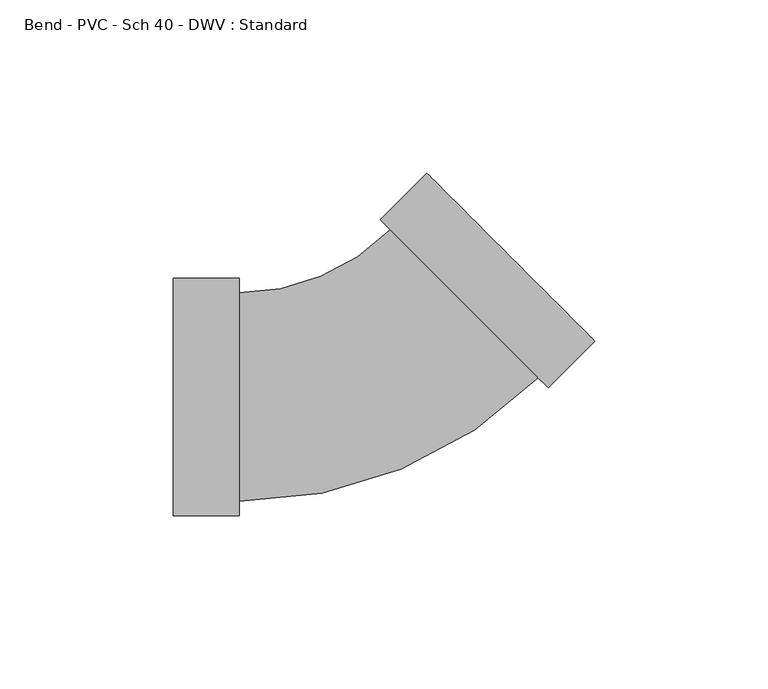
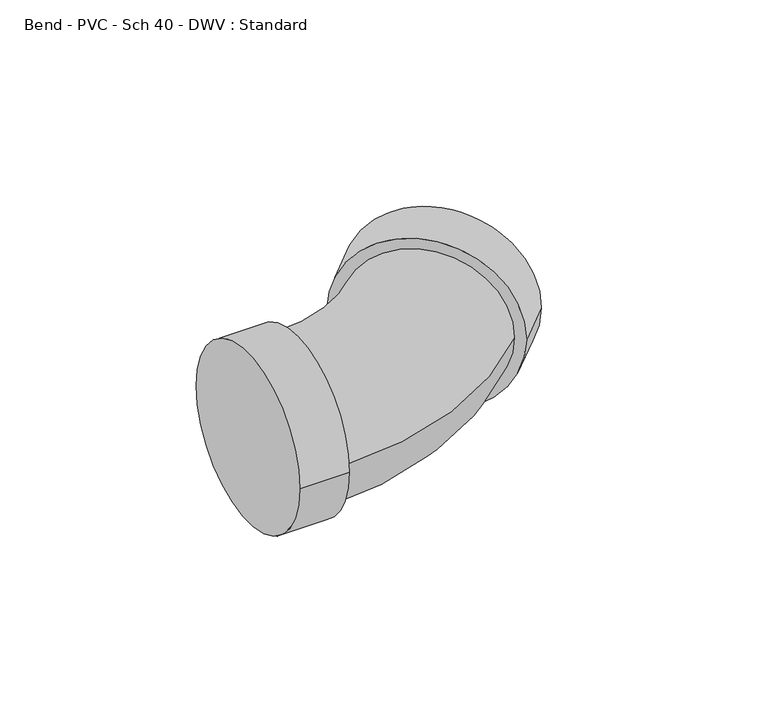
"""IFC4 building model written with IfcOpenShell, lengths in millimetres: pipe fitting geometry, Bend - PVC - Sch 40 - DWV : Standard."""

from ifc_helpers import new_model, si_unit, point, frame, origin, place, context, project, spatial, circle_curve, ellipse_curve, trimmed, source, transform, mapped, element, save
from ifc_brep_helpers import plane_surface, cylinder_surface, revolved_surface, advanced_brep


def bend_pvc_sch_40_dwv_standard_f4bd1dea(model_context):
    return source(origin(), model_context, "Body", "AdvancedBrep", [
        advanced_brep(
        [(-57.15, -34.3154, 0.0), (-57.15, 34.3154, 0.0), (-38.1, -34.3154, 0.0), (-38.1, 34.3154, 0.0), (-38.1, -30.1625, 0.0), (-38.1, 30.1625, 0.0), (5.6149164, 48.2686142, 0.0), (48.269139, 5.6104038, 0.0), (51.2055454, 2.6737227, 0.0), (2.6785099, 51.2052953, 0.0), (64.6765593, 16.1434772, 0.0), (16.1495237, 64.6750498, 0.0)],
        [
            (0, 1, circle_curve(frame((-57.15, 0.0, 0.0), z_axis=(-1.0, 0.0, 0.0), x_axis=(0.0, 1.0, 0.0)), 34.3154)),
            (1, 0, circle_curve(frame((-57.15, 0.0, 0.0), z_axis=(-1.0, 0.0, 0.0), x_axis=(0.0, 1.0, 0.0)), 34.3154)),
            (2, 3, circle_curve(frame((-38.1, 0.0, 0.0), z_axis=(1.0, 0.0, 0.0), x_axis=(0.0, 1.0, 0.0)), 34.3154)),
            (3, 2, circle_curve(frame((-38.1, 0.0, 0.0), z_axis=(1.0, 0.0, 0.0), x_axis=(0.0, 1.0, 0.0)), 34.3154)),
            (4, 5, circle_curve(frame((-38.1, 0.0, 0.0), z_axis=(-1.0, 0.0, 0.0), x_axis=(0.0, 1.0, 0.0)), 30.1625)),
            (5, 4, circle_curve(frame((-38.1, 0.0, 0.0), z_axis=(-1.0, 0.0, 0.0), x_axis=(0.0, 1.0, 0.0)), 30.1625)),
            (0, 2),
            (3, 1),
            (6, 5, circle_curve(frame((-38.1, 91.9876177, 0.0), z_axis=(0.0, 0.0, -1.0), x_axis=(0.0, -1.0, 0.0)), 61.8251177)),
            (4, 7, circle_curve(frame((-38.1, 91.9876177, 0.0), z_axis=(0.0, 0.0, 1.0), x_axis=(0.0, -1.0, 0.0)), 122.1501177)),
            (7, 6, circle_curve(frame((26.9420277, 26.939509, 0.0), z_axis=(-0.7071398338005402, -0.7070737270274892, 0.0), x_axis=(-0.7070737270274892, 0.7071398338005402, 0.0)), 30.1625)),
            (6, 7, circle_curve(frame((26.9420277, 26.939509, 0.0), z_axis=(-0.7071398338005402, -0.7070737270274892, 0.0), x_axis=(-0.7070737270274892, 0.7071398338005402, 0.0)), 30.1625)),
            (8, 9, circle_curve(frame((26.9420277, 26.939509, 0.0), z_axis=(-0.7071398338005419, -0.7070737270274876, 0.0), x_axis=(-0.7070737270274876, 0.7071398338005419, 0.0)), 34.3154)),
            (9, 8, circle_curve(frame((26.9420277, 26.939509, 0.0), z_axis=(-0.7071398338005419, -0.7070737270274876, 0.0), x_axis=(-0.7070737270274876, 0.7071398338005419, 0.0)), 34.3154)),
            (10, 11, circle_curve(frame((40.4130415, 40.4092635, 0.0), z_axis=(0.7071398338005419, 0.7070737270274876, 0.0), x_axis=(-0.7070737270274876, 0.7071398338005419, 0.0)), 34.3154)),
            (11, 10, circle_curve(frame((40.4130415, 40.4092635, 0.0), z_axis=(0.7071398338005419, 0.7070737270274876, 0.0), x_axis=(-0.7070737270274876, 0.7071398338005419, 0.0)), 34.3154)),
            (8, 10),
            (11, 9),
        ],
        [
            plane_surface(frame((-57.15, 0.0, 0.0), z_axis=(-1.0, 0.0, 0.0), x_axis=(0.0, 0.0, 1.0))),
            plane_surface(frame((-38.1, 0.0, 0.0), z_axis=(1.0, 0.0, 0.0), x_axis=(0.0, 0.0, 1.0))),
            cylinder_surface(frame((-57.15, 0.0, 0.0), z_axis=(-1.0, 0.0, 0.0), x_axis=(0.0, 1.0, 0.0)), 34.3154),
            revolved_surface(trimmed(ellipse_curve(frame((-38.1, 0.0, 0.0), z_axis=(-1.0, 0.0, 0.0), x_axis=(0.0, 1.0, 0.0)), 30.1625, 30.1625), [point((-38.1, -30.1625, 0.0))], [point((-38.1, 30.1625, 0.0))], True, "CARTESIAN"), (-38.1, 91.9876177, 0.0), (0.0, 0.0, 1.0)),
            revolved_surface(trimmed(ellipse_curve(frame((-38.1, 0.0, 0.0), z_axis=(-1.0, 0.0, 0.0), x_axis=(0.0, 1.0, 0.0)), 30.1625, 30.1625), [point((-38.1, 30.1625, 0.0))], [point((-38.1, -30.1625, 0.0))], True, "CARTESIAN"), (-38.1, 91.9876177, 0.0), (0.0, 0.0, 1.0)),
            plane_surface(frame((26.9420277, 26.939509, 0.0), z_axis=(-0.7071398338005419, -0.7070737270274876, 0.0), x_axis=(0.0, 0.0, 1.0))),
            plane_surface(frame((40.4130415, 40.4092635, 0.0), z_axis=(0.7071398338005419, 0.7070737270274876, 0.0), x_axis=(0.0, 0.0, 1.0))),
            cylinder_surface(frame((26.9420277, 26.939509, 0.0), z_axis=(-0.7071398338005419, -0.7070737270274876, 0.0), x_axis=(-0.7070737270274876, 0.7071398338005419, 0.0)), 34.3154),
        ],
        [
            (0, [[1, 2]]),
            (1, [[3, 4], [5, 6]]),
            (2, [[-1, 7, -4, 8]]),
            (2, [[-2, -8, -3, -7]]),
            (3, [[9, -5, 10, 11]]),
            (4, [[-9, 12, -10, -6]]),
            (5, [[13, 14], [-11, -12]]),
            (6, [[15, 16]]),
            (7, [[-13, 17, -16, 18]]),
            (7, [[-14, -18, -15, -17]]),
        ],
    ),
    ])


if __name__ == "__main__":
    model = new_model("IFC4")
    model_context = context("Model", 3, world=origin())
    ifc_project = project(units=[si_unit("LENGTHUNIT", "METRE", prefix="MILLI")], contexts=[model_context])
    site = spatial("IfcSite", under=ifc_project)
    building = spatial("IfcBuilding", under=site)
    placement = place(None, origin())
    bend_pvc_sch_40_dwv_standard_shape = bend_pvc_sch_40_dwv_standard_f4bd1dea(model_context)
    element("IfcPipeFitting", 1, ObjectType="Bend - PVC - Sch 40 - DWV : Standard", at=placement, inside=building, context=model_context, shape_type="MappedRepresentation", body=[
        mapped(bend_pvc_sch_40_dwv_standard_shape, transform((0.0, 0.0, 0.0), x_axis=(1.0, 0.0, 0.0), y_axis=(0.0, 1.0, 0.0), z_axis=(0.0, 0.0, 1.0))),
    ])
    save(model, "model.ifc")
